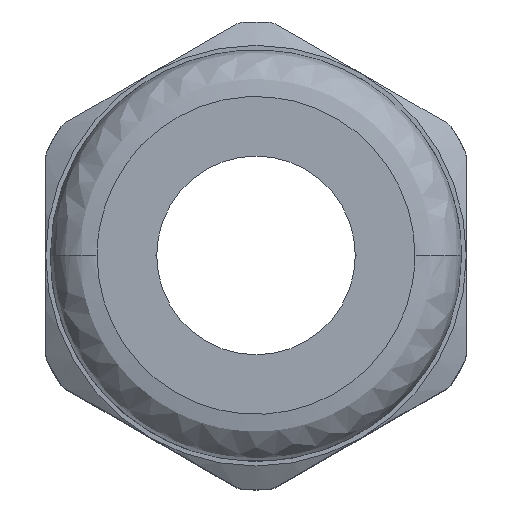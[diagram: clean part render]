
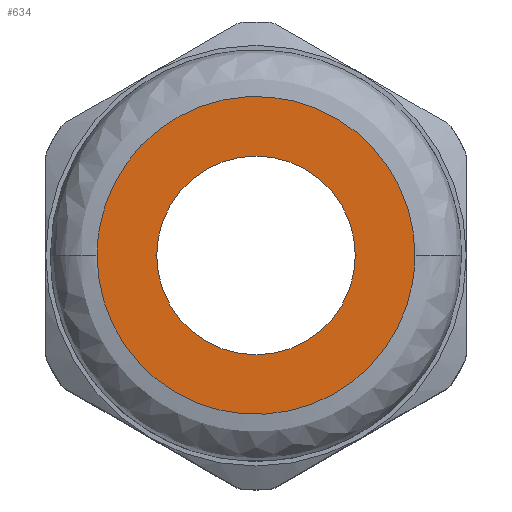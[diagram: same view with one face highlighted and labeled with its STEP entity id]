
A CAD part, top view. The second image highlights one B-rep face of the part: STEP entity #634.
In plain terms, the highlighted planar face has unit normal (0, 0, 1).
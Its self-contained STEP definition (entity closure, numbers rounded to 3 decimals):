
#28 = B_SPLINE_CURVE_WITH_KNOTS ( 'NONE', 3,
 ( #6975, #5735, #14052, #11563, #2071, #10469, #3318, #899, #5658, #10394, #9069, #8993, #6670, #15218, #13980, #827, #3239, #13748, #12660, #5507, #3082, #4489, #11407, #12738, #4561, #10241, #9293, #14986, #4329, #3162, #7898, #5583, #1993, #15292 ),
 .UNSPECIFIED., .F., .F.,
 ( 4, 2, 2, 2, 2, 2, 2, 2, 2, 2, 2, 2, 2, 2, 2, 2, 4 ),
 ( 0.5, 0.531, 0.563, 0.594, 0.625, 0.656, 0.687, 0.719, 0.75, 0.781, 0.812, 0.844, 0.875, 0.906, 0.937, 0.969, 1. ),
 .UNSPECIFIED. ) ;
#334 = CARTESIAN_POINT ( 'NONE',  ( 1.765, -6.582, 9.5 ) ) ;
#413 = CARTESIAN_POINT ( 'NONE',  ( 6.8, 0., 9.5 ) ) ;
#554 = ORIENTED_EDGE ( 'NONE', *, *, #3559, .T. ) ;
#634 = ADVANCED_FACE ( 'NONE', ( #3461, #5804 ), #5952, .T. ) ;
#827 = CARTESIAN_POINT ( 'NONE',  ( 0.888, 6.756, 9.5 ) ) ;
#899 = CARTESIAN_POINT ( 'NONE',  ( 5.405, 4.15, 9.5 ) ) ;
#1264 = CARTESIAN_POINT ( 'NONE',  ( -6.756, -0.888, 9.5 ) ) ;
#1500 = CARTESIAN_POINT ( 'NONE',  ( 6.8, -0.445, 9.5 ) ) ;
#1578 = CARTESIAN_POINT ( 'NONE',  ( 5.405, -4.15, 9.5 ) ) ;
#1993 = CARTESIAN_POINT ( 'NONE',  ( -6.8, 0.445, 9.5 ) ) ;
#2071 = CARTESIAN_POINT ( 'NONE',  ( 6.453, 2.191, 9.5 ) ) ;
#2428 = CARTESIAN_POINT ( 'NONE',  ( -6.8, 0., 9.5 ) ) ;
#2585 = CARTESIAN_POINT ( 'NONE',  ( 6.453, -2.191, 9.5 ) ) ;
#2670 = CARTESIAN_POINT ( 'NONE',  ( -3.406, -5.902, 9.5 ) ) ;
#2726 = EDGE_LOOP ( 'NONE', ( #15279, #13979 ) ) ;
#3082 = CARTESIAN_POINT ( 'NONE',  ( -2.191, 6.453, 9.5 ) ) ;
#3162 = CARTESIAN_POINT ( 'NONE',  ( -6.453, 2.191, 9.5 ) ) ;
#3228 = AXIS2_PLACEMENT_3D ( 'NONE', #14270, #7193, #3773 ) ;
#3239 = CARTESIAN_POINT ( 'NONE',  ( 0.445, 6.8, 9.5 ) ) ;
#3266 = EDGE_CURVE ( 'NONE', #3892, #9540, #8698, .T. ) ;
#3271 = CIRCLE ( 'NONE', #13707, 4.25 ) ;
#3318 = CARTESIAN_POINT ( 'NONE',  ( 5.902, 3.406, 9.5 ) ) ;
#3443 = CARTESIAN_POINT ( 'NONE',  ( -5.902, -3.406, 9.5 ) ) ;
#3461 = FACE_OUTER_BOUND ( 'NONE', #2726, .T. ) ;
#3559 = EDGE_CURVE ( 'NONE', #4271, #8961, #3271, .T. ) ;
#3673 = CARTESIAN_POINT ( 'NONE',  ( 3.013, -6.112, 9.5 ) ) ;
#3773 = DIRECTION ( 'NONE',  ( 1., 0., 0. ) ) ;
#3892 = VERTEX_POINT ( 'NONE', #12995 ) ;
#3917 = CARTESIAN_POINT ( 'NONE',  ( 5.123, -4.494, 9.5 ) ) ;
#4271 = VERTEX_POINT ( 'NONE', #14555 ) ;
#4329 = CARTESIAN_POINT ( 'NONE',  ( -6.112, 3.013, 9.5 ) ) ;
#4489 = CARTESIAN_POINT ( 'NONE',  ( -3.013, 6.112, 9.5 ) ) ;
#4561 = CARTESIAN_POINT ( 'NONE',  ( -4.494, 5.123, 9.5 ) ) ;
#4611 = CARTESIAN_POINT ( 'NONE',  ( -6.112, -3.013, 9.5 ) ) ;
#4926 = CARTESIAN_POINT ( 'NONE',  ( -0.445, -6.8, 9.5 ) ) ;
#5000 = CARTESIAN_POINT ( 'NONE',  ( -5.405, -4.15, 9.5 ) ) ;
#5083 = CARTESIAN_POINT ( 'NONE',  ( -2.191, -6.453, 9.5 ) ) ;
#5171 = CARTESIAN_POINT ( 'NONE',  ( -1.765, -6.582, 9.5 ) ) ;
#5507 = CARTESIAN_POINT ( 'NONE',  ( -1.765, 6.582, 9.5 ) ) ;
#5583 = CARTESIAN_POINT ( 'NONE',  ( -6.756, 0.887, 9.5 ) ) ;
#5658 = CARTESIAN_POINT ( 'NONE',  ( 5.123, 4.494, 9.5 ) ) ;
#5735 = CARTESIAN_POINT ( 'NONE',  ( 6.8, 0.445, 9.5 ) ) ;
#5804 = FACE_BOUND ( 'NONE', #5955, .T. ) ;
#5952 = PLANE ( 'NONE',  #3228 ) ;
#5955 = EDGE_LOOP ( 'NONE', ( #8792, #554 ) ) ;
#6013 = CARTESIAN_POINT ( 'NONE',  ( -6.453, -2.191, 9.5 ) ) ;
#6248 = CARTESIAN_POINT ( 'NONE',  ( -5.123, -4.494, 9.5 ) ) ;
#6670 = CARTESIAN_POINT ( 'NONE',  ( 3.013, 6.112, 9.5 ) ) ;
#6975 = CARTESIAN_POINT ( 'NONE',  ( 6.8, 0., 9.5 ) ) ;
#7193 = DIRECTION ( 'NONE',  ( 0., 0., 1. ) ) ;
#7217 = DIRECTION ( 'NONE',  ( -1., 0., 0. ) ) ;
#7254 = CARTESIAN_POINT ( 'NONE',  ( 2.191, -6.453, 9.5 ) ) ;
#7293 = DIRECTION ( 'NONE',  ( 0., 0., -1. ) ) ;
#7408 = CARTESIAN_POINT ( 'NONE',  ( 3.406, -5.902, 9.5 ) ) ;
#7898 = CARTESIAN_POINT ( 'NONE',  ( -6.582, 1.766, 9.5 ) ) ;
#8121 = CIRCLE ( 'NONE', #14094, 4.25 ) ;
#8415 = CARTESIAN_POINT ( 'NONE',  ( 4.494, -5.123, 9.5 ) ) ;
#8570 = CARTESIAN_POINT ( 'NONE',  ( 6.112, -3.013, 9.5 ) ) ;
#8698 = B_SPLINE_CURVE_WITH_KNOTS ( 'NONE', 3,
 ( #2428, #9348, #1264, #11700, #6013, #4611, #3443, #5000, #6248, #9814, #14332, #2670, #10829, #5083, #5171, #14560, #4926, #10989, #9655, #334, #7254, #3673, #7408, #12243, #8415, #3917, #1578, #12162, #8570, #2585, #13323, #9735, #1500, #413 ),
 .UNSPECIFIED., .F., .F.,
 ( 4, 2, 2, 2, 2, 2, 2, 2, 2, 2, 2, 2, 2, 2, 2, 2, 4 ),
 ( 0., 0.031, 0.063, 0.094, 0.125, 0.156, 0.188, 0.219, 0.25, 0.281, 0.313, 0.344, 0.375, 0.406, 0.438, 0.469, 0.5 ),
 .UNSPECIFIED. ) ;
#8792 = ORIENTED_EDGE ( 'NONE', *, *, #13183, .T. ) ;
#8961 = VERTEX_POINT ( 'NONE', #13359 ) ;
#8993 = CARTESIAN_POINT ( 'NONE',  ( 3.406, 5.902, 9.5 ) ) ;
#9069 = CARTESIAN_POINT ( 'NONE',  ( 4.15, 5.405, 9.5 ) ) ;
#9293 = CARTESIAN_POINT ( 'NONE',  ( -5.405, 4.15, 9.5 ) ) ;
#9348 = CARTESIAN_POINT ( 'NONE',  ( -6.8, -0.445, 9.5 ) ) ;
#9540 = VERTEX_POINT ( 'NONE', #13423 ) ;
#9655 = CARTESIAN_POINT ( 'NONE',  ( 0.888, -6.756, 9.5 ) ) ;
#9735 = CARTESIAN_POINT ( 'NONE',  ( 6.756, -0.888, 9.5 ) ) ;
#9814 = CARTESIAN_POINT ( 'NONE',  ( -4.494, -5.123, 9.5 ) ) ;
#10241 = CARTESIAN_POINT ( 'NONE',  ( -5.123, 4.494, 9.5 ) ) ;
#10394 = CARTESIAN_POINT ( 'NONE',  ( 4.494, 5.123, 9.5 ) ) ;
#10469 = CARTESIAN_POINT ( 'NONE',  ( 6.112, 3.013, 9.5 ) ) ;
#10829 = CARTESIAN_POINT ( 'NONE',  ( -3.013, -6.112, 9.5 ) ) ;
#10989 = CARTESIAN_POINT ( 'NONE',  ( 0.445, -6.8, 9.5 ) ) ;
#11407 = CARTESIAN_POINT ( 'NONE',  ( -3.406, 5.902, 9.5 ) ) ;
#11563 = CARTESIAN_POINT ( 'NONE',  ( 6.582, 1.765, 9.5 ) ) ;
#11666 = EDGE_CURVE ( 'NONE', #9540, #3892, #28, .T. ) ;
#11700 = CARTESIAN_POINT ( 'NONE',  ( -6.582, -1.765, 9.5 ) ) ;
#12162 = CARTESIAN_POINT ( 'NONE',  ( 5.902, -3.406, 9.5 ) ) ;
#12243 = CARTESIAN_POINT ( 'NONE',  ( 4.15, -5.405, 9.5 ) ) ;
#12400 = DIRECTION ( 'NONE',  ( -1., 0., 0. ) ) ;
#12660 = CARTESIAN_POINT ( 'NONE',  ( -0.888, 6.756, 9.5 ) ) ;
#12738 = CARTESIAN_POINT ( 'NONE',  ( -4.15, 5.405, 9.5 ) ) ;
#12995 = CARTESIAN_POINT ( 'NONE',  ( -6.8, 0., 9.5 ) ) ;
#13049 = CARTESIAN_POINT ( 'NONE',  ( 0., 0., 9.5 ) ) ;
#13183 = EDGE_CURVE ( 'NONE', #8961, #4271, #8121, .T. ) ;
#13323 = CARTESIAN_POINT ( 'NONE',  ( 6.582, -1.765, 9.5 ) ) ;
#13359 = CARTESIAN_POINT ( 'NONE',  ( -4.25, 0., 9.5 ) ) ;
#13423 = CARTESIAN_POINT ( 'NONE',  ( 6.8, 0., 9.5 ) ) ;
#13570 = CARTESIAN_POINT ( 'NONE',  ( 0., 0., 9.5 ) ) ;
#13707 = AXIS2_PLACEMENT_3D ( 'NONE', #13570, #14879, #12400 ) ;
#13748 = CARTESIAN_POINT ( 'NONE',  ( -0.445, 6.8, 9.5 ) ) ;
#13979 = ORIENTED_EDGE ( 'NONE', *, *, #11666, .T. ) ;
#13980 = CARTESIAN_POINT ( 'NONE',  ( 1.765, 6.582, 9.5 ) ) ;
#14052 = CARTESIAN_POINT ( 'NONE',  ( 6.756, 0.888, 9.5 ) ) ;
#14094 = AXIS2_PLACEMENT_3D ( 'NONE', #13049, #7293, #7217 ) ;
#14270 = CARTESIAN_POINT ( 'NONE',  ( 0., 8.8, 9.5 ) ) ;
#14332 = CARTESIAN_POINT ( 'NONE',  ( -4.15, -5.405, 9.5 ) ) ;
#14555 = CARTESIAN_POINT ( 'NONE',  ( 4.25, 0., 9.5 ) ) ;
#14560 = CARTESIAN_POINT ( 'NONE',  ( -0.888, -6.756, 9.5 ) ) ;
#14879 = DIRECTION ( 'NONE',  ( 0., 0., -1. ) ) ;
#14986 = CARTESIAN_POINT ( 'NONE',  ( -5.902, 3.406, 9.5 ) ) ;
#15218 = CARTESIAN_POINT ( 'NONE',  ( 2.191, 6.453, 9.5 ) ) ;
#15279 = ORIENTED_EDGE ( 'NONE', *, *, #3266, .T. ) ;
#15292 = CARTESIAN_POINT ( 'NONE',  ( -6.8, 0., 9.5 ) ) ;
